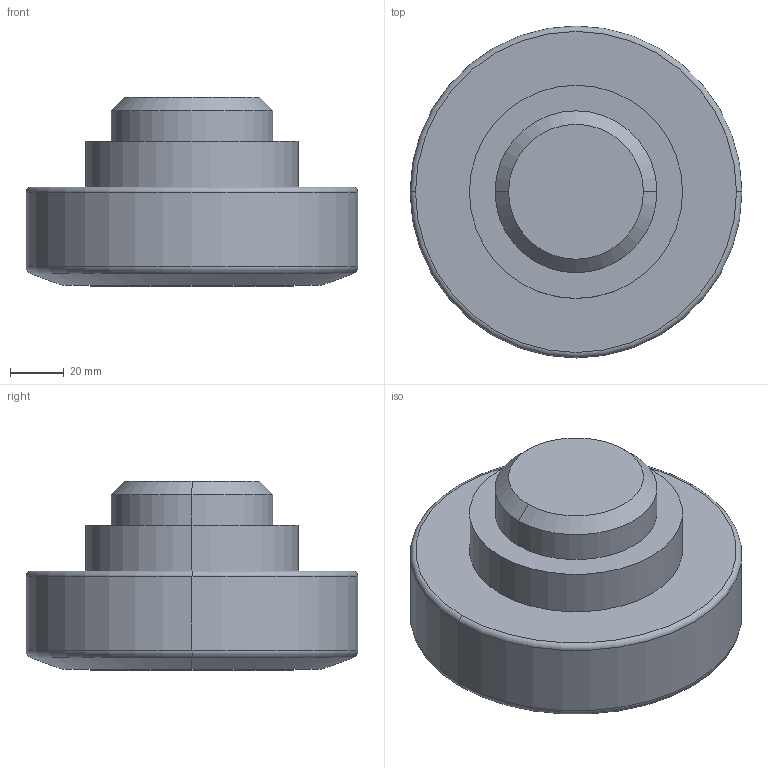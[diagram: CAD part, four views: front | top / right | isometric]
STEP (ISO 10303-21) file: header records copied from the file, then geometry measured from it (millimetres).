
FILE_DESCRIPTION (( 'STEP AP214' ), '1' );
FILE_NAME ('3D2.1642.STEP', '2013-12-17T05:19:27', ( 'usuario' ), ( 'Hewlett-Packard Company' ), 'SwSTEP 2.0', 'SolidWorks 2017', '' );
FILE_SCHEMA (( 'AUTOMOTIVE_DESIGN' ));
Length unit declared in the file: millimetre
Products named in the file (1): 3D2.1642
Bounding box: 123 x 123 x 70.3 mm (x, y, z)
Volume: 550182.1 mm3; surface area: 42520.6 mm2
Topology: 1 solids, 1 shells, 21 faces, 40 edges, 24 vertices
Faces by surface type: cylinder 8, plane 5, cone 4, torus 4
Entity records: 572 total; most frequent: DIRECTION 112, CARTESIAN_POINT 86, ORIENTED_EDGE 80, AXIS2_PLACEMENT_3D 50, EDGE_CURVE 40, CIRCLE 28, EDGE_LOOP 24, VERTEX_POINT 24
